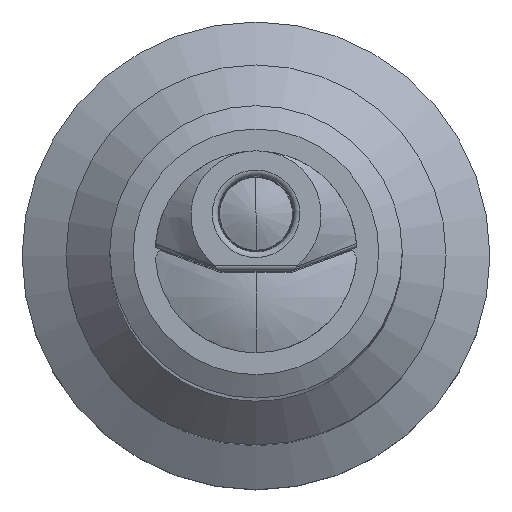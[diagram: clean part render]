
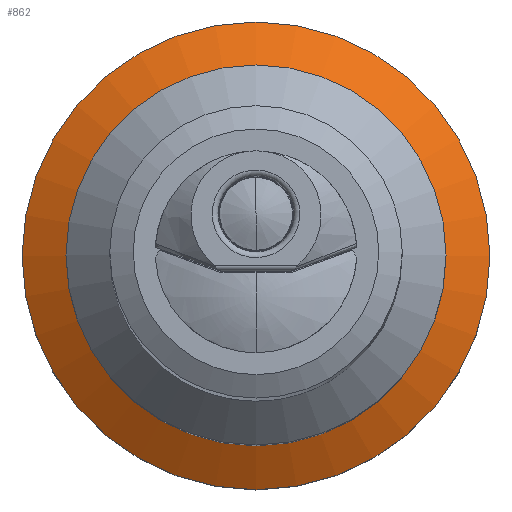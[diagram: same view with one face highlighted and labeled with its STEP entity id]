
A CAD part, top view. The second image highlights one B-rep face of the part: STEP entity #862.
In plain terms, the highlighted conical face has half-angle 60 degrees and reference radius 3.625 mm.
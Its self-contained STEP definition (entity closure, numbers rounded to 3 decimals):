
#30=CONICAL_SURFACE('',#955,3.625,1.047);
#78=FACE_OUTER_BOUND('',#135,.T.);
#135=EDGE_LOOP('',(#630,#631,#632,#633,#634,#635));
#201=CIRCLE('',#953,3.25);
#202=CIRCLE('',#954,3.25);
#203=CIRCLE('',#956,4.);
#204=CIRCLE('',#957,4.);
#296=LINE('',#1585,#329);
#329=VECTOR('',#1122,3.625);
#381=VERTEX_POINT('',#1575);
#382=VERTEX_POINT('',#1577);
#383=VERTEX_POINT('',#1581);
#384=VERTEX_POINT('',#1582);
#481=EDGE_CURVE('',#381,#382,#201,.T.);
#482=EDGE_CURVE('',#382,#381,#202,.T.);
#483=EDGE_CURVE('',#383,#384,#203,.T.);
#484=EDGE_CURVE('',#384,#383,#204,.T.);
#485=EDGE_CURVE('',#383,#382,#296,.T.);
#630=ORIENTED_EDGE('',*,*,#483,.T.);
#631=ORIENTED_EDGE('',*,*,#484,.T.);
#632=ORIENTED_EDGE('',*,*,#485,.T.);
#633=ORIENTED_EDGE('',*,*,#481,.F.);
#634=ORIENTED_EDGE('',*,*,#482,.F.);
#635=ORIENTED_EDGE('',*,*,#485,.F.);
#862=ADVANCED_FACE('',(#78),#30,.T.);
#953=AXIS2_PLACEMENT_3D('',#1578,#1112,#1113);
#954=AXIS2_PLACEMENT_3D('',#1579,#1114,#1115);
#955=AXIS2_PLACEMENT_3D('',#1580,#1116,#1117);
#956=AXIS2_PLACEMENT_3D('',#1583,#1118,#1119);
#957=AXIS2_PLACEMENT_3D('',#1584,#1120,#1121);
#1112=DIRECTION('center_axis',(0.,0.,1.));
#1113=DIRECTION('ref_axis',(-1.,0.,0.));
#1114=DIRECTION('center_axis',(0.,0.,1.));
#1115=DIRECTION('ref_axis',(-1.,0.,0.));
#1116=DIRECTION('center_axis',(0.,0.,-1.));
#1117=DIRECTION('ref_axis',(-1.,0.,0.));
#1118=DIRECTION('center_axis',(0.,0.,1.));
#1119=DIRECTION('ref_axis',(-1.,0.,0.));
#1120=DIRECTION('center_axis',(0.,0.,1.));
#1121=DIRECTION('ref_axis',(-1.,0.,0.));
#1122=DIRECTION('',(-0.866,0.,0.5));
#1575=CARTESIAN_POINT('',(-3.25,0.,-39.6));
#1577=CARTESIAN_POINT('',(3.25,0.,-39.6));
#1578=CARTESIAN_POINT('Origin',(0.,0.,-39.6));
#1579=CARTESIAN_POINT('Origin',(0.,0.,-39.6));
#1580=CARTESIAN_POINT('Origin',(0.,0.,-39.817));
#1581=CARTESIAN_POINT('',(4.,0.,-40.033));
#1582=CARTESIAN_POINT('',(-4.,0.,-40.033));
#1583=CARTESIAN_POINT('Origin',(0.,0.,-40.033));
#1584=CARTESIAN_POINT('Origin',(0.,0.,-40.033));
#1585=CARTESIAN_POINT('',(3.625,0.,-39.817));
